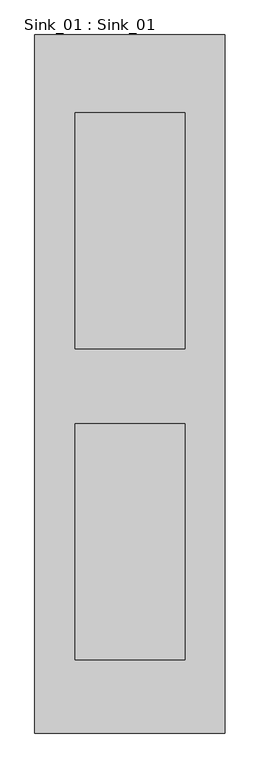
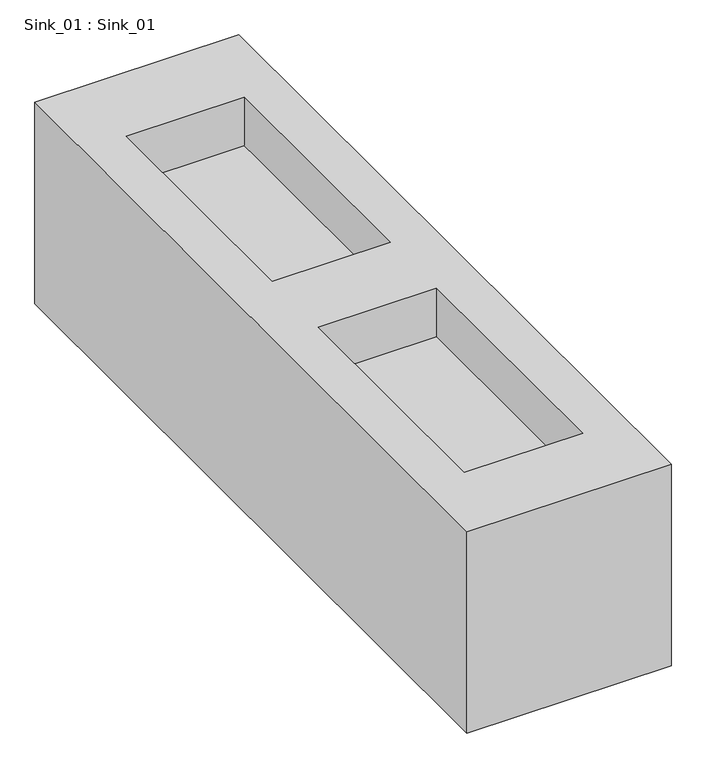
"""IFC4 building model written with IfcOpenShell, lengths in millimetres: flow terminal geometry, Sink_01 : Sink_01."""

from ifc_helpers import new_model, si_unit, origin, place, context, project, spatial, faceted_brep, source, transform, mapped, element, save


def sink_01_sink_01_286b0f5a(model_context):
    return source(origin(), model_context, "Body", "Brep", [
        faceted_brep([(-7745.5019919, 1613.8264883, 7428.0528622), (-7745.5019919, -161.1735117, 7428.0528622), (-7261.4390671, -161.1735117, 7428.0528622), (-7261.4390671, 1613.8264883, 7428.0528622), (-7643.4850998, 1415.6022179, 7428.0528622), (-7363.4850998, 1415.6022179, 7428.0528622), (-7363.4850998, 815.6022179, 7428.0528622), (-7643.4850998, 815.6022179, 7428.0528622), (-7363.4850998, 625.6022179, 7428.0528622), (-7363.4850998, 25.6022179, 7428.0528622), (-7643.4850998, 25.6022179, 7428.0528622), (-7643.4850998, 625.6022179, 7428.0528622), (-7745.5019919, 1613.8264883, 6923.0299652), (-7261.4390671, 1613.8264883, 6923.0299652), (-7261.4390671, -161.1735117, 6923.0299652), (-7745.5019919, -161.1735117, 6923.0299652), (-7363.4850998, 1415.6022179, 7305.7457617), (-7643.4850998, 1415.6022179, 7305.7457617), (-7643.4850998, 815.6022179, 7305.7457617), (-7363.4850998, 815.6022179, 7305.7457617), (-7363.4850998, 25.6022179, 7305.7457617), (-7363.4850998, 625.6022179, 7305.7457617), (-7643.4850998, 625.6022179, 7305.7457617), (-7643.4850998, 25.6022179, 7305.7457617)], [[[0, 1, 2, 3], [4, 5, 6, 7], [8, 9, 10, 11]], [[12, 13, 14, 15]], [[1, 0, 12, 15]], [[2, 1, 15, 14]], [[3, 2, 14, 13]], [[0, 3, 13, 12]], [[16, 17, 18, 19]], [[20, 21, 22, 23]], [[17, 16, 5, 4]], [[18, 17, 4, 7]], [[19, 18, 7, 6]], [[16, 19, 6, 5]], [[21, 20, 9, 8]], [[22, 21, 8, 11]], [[23, 22, 11, 10]], [[20, 23, 10, 9]]]),
    ])


if __name__ == "__main__":
    model = new_model("IFC4")
    model_context = context("Model", 3, world=origin())
    ifc_project = project(units=[si_unit("LENGTHUNIT", "METRE", prefix="MILLI")], contexts=[model_context])
    site = spatial("IfcSite", under=ifc_project)
    building = spatial("IfcBuilding", under=site)
    placement = place(None, origin())
    sink_01_sink_01_shape = sink_01_sink_01_286b0f5a(model_context)
    element("IfcFlowTerminal", 1, ObjectType="Sink_01 : Sink_01", at=placement, inside=building, context=model_context, shape_type="MappedRepresentation", body=[
        mapped(sink_01_sink_01_shape, transform((0.0, 0.0, 0.0), x_axis=(1.0, 0.0, 0.0), y_axis=(0.0, 1.0, 0.0), z_axis=(0.0, 0.0, 1.0))),
    ])
    save(model, "model.ifc")
